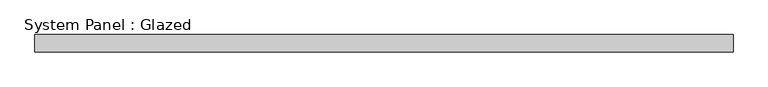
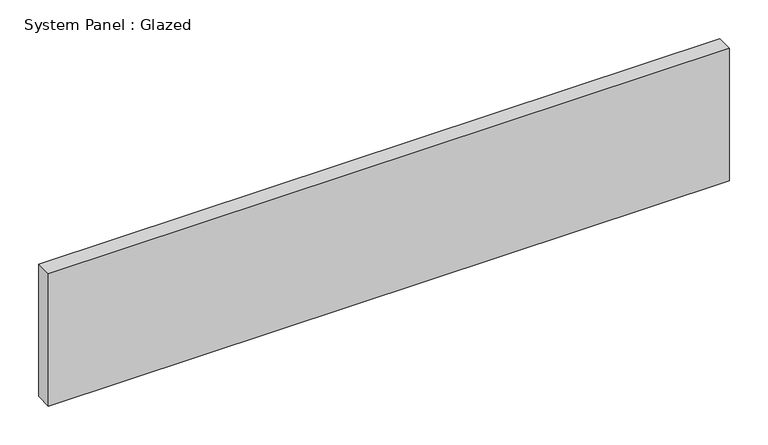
"""IFC4 building model written with IfcOpenShell, lengths in millimetres: plate geometry, System Panel : Glazed."""

from ifc_helpers import new_model, si_unit, origin, origin_with_axes, place, context, project, spatial, polyline, outline, extrude, source, transform, mapped, element, save


def system_panel_glazed_2ca8d0b5(model_context):
    return source(origin(), model_context, "Body", "SweptSolid", [
        extrude(outline(polyline([(510.2678571, 19.05), (-510.2678571, 19.05), (-510.2678571, 44.45), (510.2678571, 44.45), (510.2678571, 19.05)])), origin_with_axes(), (0.0, 0.0, 1.0), 209.55),
    ])


if __name__ == "__main__":
    model = new_model("IFC4")
    model_context = context("Model", 3, world=origin())
    ifc_project = project(units=[si_unit("LENGTHUNIT", "METRE", prefix="MILLI")], contexts=[model_context])
    site = spatial("IfcSite", under=ifc_project)
    building = spatial("IfcBuilding", under=site)
    placement = place(None, origin())
    system_panel_glazed_shape = system_panel_glazed_2ca8d0b5(model_context)
    element("IfcPlate", 1, ObjectType="System Panel : Glazed", at=placement, inside=building, context=model_context, shape_type="MappedRepresentation", body=[
        mapped(system_panel_glazed_shape, transform((0.0, 0.0, 0.0), x_axis=(1.0, 0.0, 0.0), y_axis=(0.0, 1.0, 0.0), z_axis=(0.0, 0.0, 1.0))),
    ])
    save(model, "model.ifc")
